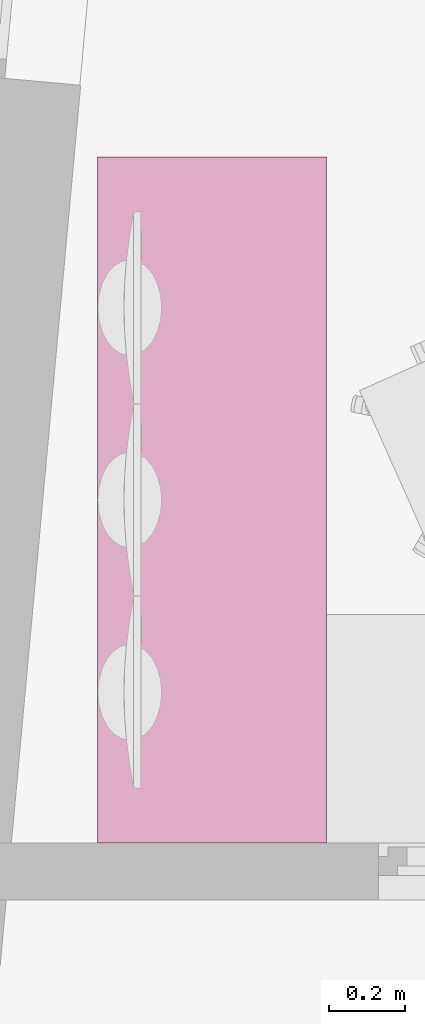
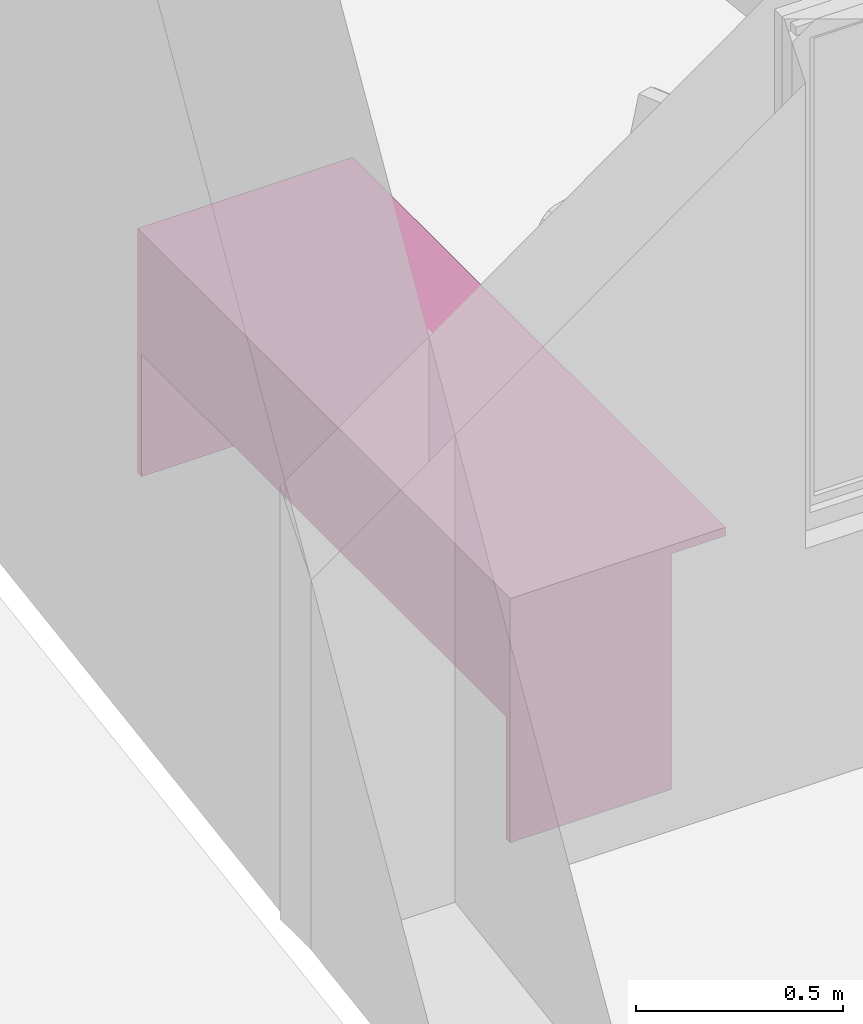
# One storey, part 32 of 36: 1 furnishing.
"""IFC2X3 building model written with IfcOpenShell, lengths in millimetres."""

from ifc_helpers import new_model, entity, si_unit, converted_unit, money_unit, direction, frame, origin_with_axes, place, context, subcontext, project, spatial, faceted_brep, source, transform, mapped, material, material_list, type_object, element, save


model = new_model("IFC2X3")

# Units and contexts
model_context = context("Model", 3, precision=1e-05, world=origin_with_axes(), true_north=direction((0.0, 1.0)))
body_context = subcontext(model_context, "Body", "Model", "MODEL_VIEW")
ifc_project = project(units=[si_unit("LENGTHUNIT", "METRE", prefix="MILLI"), si_unit("AREAUNIT", "SQUARE_METRE"), si_unit("VOLUMEUNIT", "CUBIC_METRE"), converted_unit("PLANEANGLEUNIT", "DEGREE", entity("IfcPlaneAngleMeasure", 0.0174532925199), si_unit("PLANEANGLEUNIT", "RADIAN"), dimensions=[0, 0, 0, 0, 0, 0, 0]), si_unit("SOLIDANGLEUNIT", "STERADIAN"), money_unit("USD"), converted_unit("TIMEUNIT", "Year", entity("IfcTimeMeasure", 31556926.0), si_unit("TIMEUNIT", "SECOND"), dimensions=[0, 0, 0, 0, 0, 0, 0]), si_unit("MASSUNIT", "GRAM"), si_unit("THERMODYNAMICTEMPERATUREUNIT", "DEGREE_CELSIUS"), si_unit("LUMINOUSINTENSITYUNIT", "LUMEN")], contexts=[model_context])

# Site, building, storey
site_placement = place(None, origin_with_axes())
site = spatial("IfcSite", under=ifc_project, at=site_placement, Name="Site", CompositionType="ELEMENT")
building_placement = place(site_placement, origin_with_axes())
building = spatial("IfcBuilding", under=site, at=building_placement, Name="Building", CompositionType="ELEMENT")
storey_placement = place(building_placement, frame((0.0, 0.0, -3400.0), z_axis=(0.0, 0.0, 1.0), x_axis=(1.0, 0.0, 0.0)))
storey = spatial("IfcBuildingStorey", under=building, at=storey_placement, Name="1KORRUS", CompositionType="ELEMENT", Elevation=-3400.0)

# Furnishing
ifc_material = material(Name="Background")
ifc_material_list = material_list([ifc_material])
furnishing_element_type = type_object("IfcFurnishingElementType", Name="Desk 19")
shared_shape = source(origin_with_axes(), body_context, "Body", "Brep", [
    faceted_brep([(-20.0, 150.0, 0.0), (-20.0, 600.0, 0.0), (0.0, 600.0, 0.0), (0.0, 150.0, 0.0), (-20.0, 150.0, 695.0), (-20.0, 600.0, 695.0), (0.0, 600.0, 695.0), (0.0, 150.0, 695.0)], [[[0, 1, 2, 3]], [[0, 4, 5, 1]], [[1, 5, 6, 2]], [[2, 6, 7, 3]], [[3, 7, 4, 0]], [[7, 6, 5, 4]]]),
    faceted_brep([(-1800.0, 150.0, 0.0), (-1800.0, 600.0, 0.0), (-1780.0, 600.0, 0.0), (-1780.0, 150.0, 0.0), (-1800.0, 150.0, 695.0), (-1800.0, 600.0, 695.0), (-1780.0, 600.0, 695.0), (-1780.0, 150.0, 695.0)], [[[0, 1, 2, 3]], [[0, 4, 5, 1]], [[1, 5, 6, 2]], [[2, 6, 7, 3]], [[3, 7, 4, 0]], [[7, 6, 5, 4]]]),
    faceted_brep([(-1800.0, 0.0, 695.0), (-1800.0, 600.0, 695.0), (0.0, 600.0, 695.0), (0.0, 0.0, 695.0), (-1800.0, 0.0, 720.0), (-1800.0, 600.0, 720.0), (0.0, 600.0, 720.0), (0.0, 0.0, 720.0)], [[[0, 1, 2, 3]], [[0, 4, 5, 1]], [[1, 5, 6, 2]], [[2, 6, 7, 3]], [[3, 7, 4, 0]], [[7, 6, 5, 4]]]),
    faceted_brep([(-1780.0, 580.0, 360.0), (-1780.0, 600.0, 360.0), (-20.0, 600.0, 360.0), (-20.0, 580.0, 360.0), (-1780.0, 580.0, 695.0), (-1780.0, 600.0, 695.0), (-20.0, 600.0, 695.0), (-20.0, 580.0, 695.0)], [[[0, 1, 2, 3]], [[0, 4, 5, 1]], [[1, 5, 6, 2]], [[2, 6, 7, 3]], [[3, 7, 4, 0]], [[7, 6, 5, 4]]]),
])
furnishing_placement = place(storey_placement, frame((-56987.0141553, -9047.6526712, 0.0), z_axis=(0.0, 0.0, 1.0), x_axis=(0.0, 1.0, 0.0)))
element("IfcFurnishingElement", 1, at=furnishing_placement, inside=storey, type_object=furnishing_element_type, material=ifc_material_list, Name="DL1", ObjectType="Table", context=body_context, shape_type="MappedRepresentation", body=[
    mapped(shared_shape, transform((0.0, 0.0, 0.0))),
])

save(model, "model.ifc")
